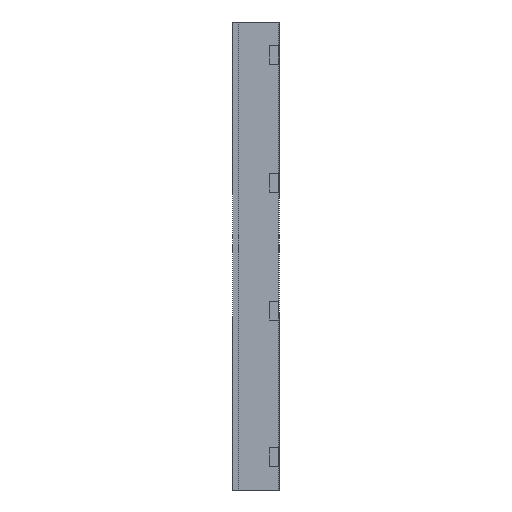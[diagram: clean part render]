
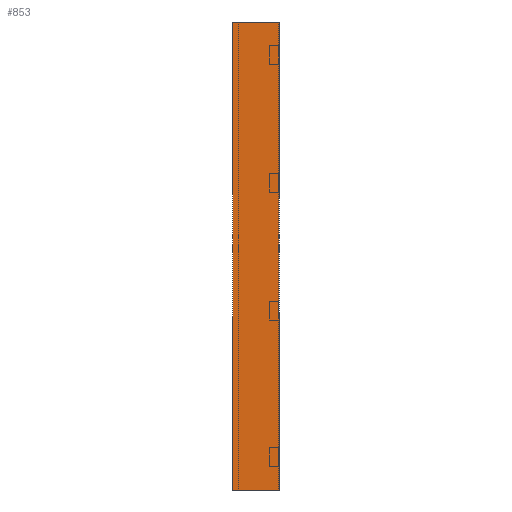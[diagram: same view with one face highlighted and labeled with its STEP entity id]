
A CAD part, left-side view. The second image highlights one B-rep face of the part: STEP entity #853.
In plain terms, the highlighted planar face has unit normal (-1, 0, 0).
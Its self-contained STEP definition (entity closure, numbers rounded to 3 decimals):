
#65 = LINE ( 'NONE', #1101, #746 ) ;
#75 = LINE ( 'NONE', #203, #1594 ) ;
#77 = ORIENTED_EDGE ( 'NONE', *, *, #1024, .F. ) ;
#107 = VERTEX_POINT ( 'NONE', #1466 ) ;
#143 = VECTOR ( 'NONE', #277, 1000. ) ;
#165 = DIRECTION ( 'NONE',  ( 0., 0., 1. ) ) ;
#203 = CARTESIAN_POINT ( 'NONE',  ( 0., 100., -1000. ) ) ;
#277 = DIRECTION ( 'NONE',  ( 0., 0., 1. ) ) ;
#302 = VERTEX_POINT ( 'NONE', #1473 ) ;
#393 = PLANE ( 'NONE',  #1203 ) ;
#401 = CARTESIAN_POINT ( 'NONE',  ( 0., 100., -1000. ) ) ;
#420 = ORIENTED_EDGE ( 'NONE', *, *, #1072, .T. ) ;
#524 = FACE_OUTER_BOUND ( 'NONE', #1599, .T. ) ;
#540 = CARTESIAN_POINT ( 'NONE',  ( 0., 0., -1000. ) ) ;
#611 = LINE ( 'NONE', #1146, #622 ) ;
#622 = VECTOR ( 'NONE', #883, 1000. ) ;
#648 = LINE ( 'NONE', #807, #143 ) ;
#746 = VECTOR ( 'NONE', #1110, 1000. ) ;
#749 = EDGE_CURVE ( 'NONE', #302, #107, #611, .T. ) ;
#807 = CARTESIAN_POINT ( 'NONE',  ( 0., 0., -1000. ) ) ;
#839 = EDGE_CURVE ( 'NONE', #1448, #107, #648, .T. ) ;
#853 = ADVANCED_FACE ( 'NONE', ( #524 ), #393, .T. ) ;
#883 = DIRECTION ( 'NONE',  ( 0., -1., 0. ) ) ;
#1024 = EDGE_CURVE ( 'NONE', #1299, #302, #75, .T. ) ;
#1059 = DIRECTION ( 'NONE',  ( -1., 0., 0. ) ) ;
#1072 = EDGE_CURVE ( 'NONE', #1299, #1448, #65, .T. ) ;
#1078 = CARTESIAN_POINT ( 'NONE',  ( 0., 0., -1000. ) ) ;
#1101 = CARTESIAN_POINT ( 'NONE',  ( 0., 0., -1000. ) ) ;
#1110 = DIRECTION ( 'NONE',  ( 0., -1., 0. ) ) ;
#1146 = CARTESIAN_POINT ( 'NONE',  ( 0., 0., 0. ) ) ;
#1203 = AXIS2_PLACEMENT_3D ( 'NONE', #540, #1059, #165 ) ;
#1299 = VERTEX_POINT ( 'NONE', #401 ) ;
#1344 = DIRECTION ( 'NONE',  ( 0., 0., 1. ) ) ;
#1448 = VERTEX_POINT ( 'NONE', #1078 ) ;
#1452 = ORIENTED_EDGE ( 'NONE', *, *, #839, .T. ) ;
#1466 = CARTESIAN_POINT ( 'NONE',  ( 0., 0., 0. ) ) ;
#1473 = CARTESIAN_POINT ( 'NONE',  ( 0., 100., 0. ) ) ;
#1594 = VECTOR ( 'NONE', #1344, 1000. ) ;
#1599 = EDGE_LOOP ( 'NONE', ( #1623, #77, #420, #1452 ) ) ;
#1623 = ORIENTED_EDGE ( 'NONE', *, *, #749, .F. ) ;
